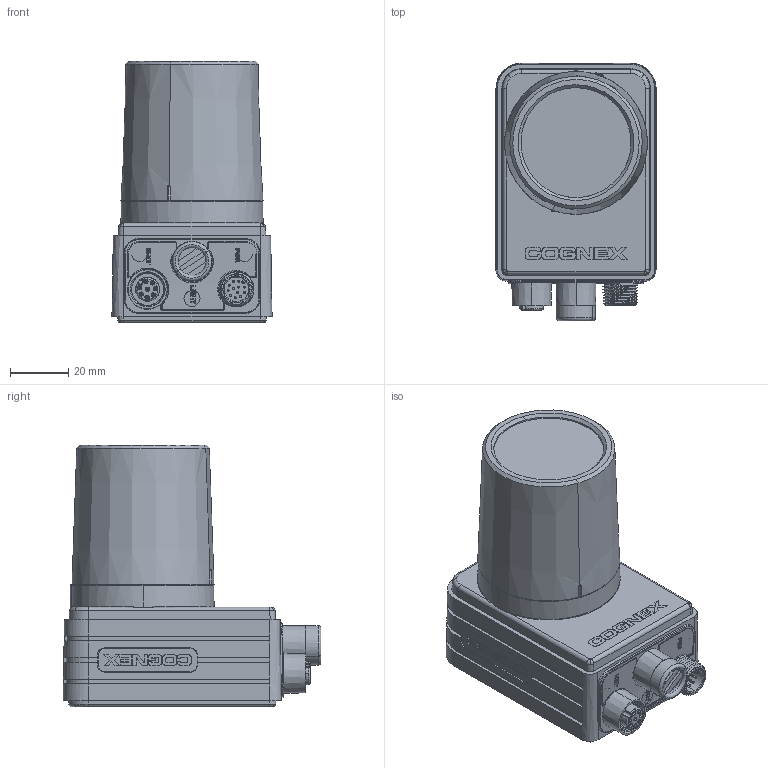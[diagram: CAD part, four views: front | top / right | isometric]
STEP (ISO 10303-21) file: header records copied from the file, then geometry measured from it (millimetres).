
FILE_DESCRIPTION (( 'STEP AP214' ), '1' );
FILE_NAME ('IS011-07_5-30-14.STEP', '2014-06-02T20:52:02', ( '' ), ( '' ), 'SwSTEP 2.0', 'SolidWorks 2014', '' );
FILE_SCHEMA (( 'AUTOMOTIVE_DESIGN' ));
Length unit declared in the file: millimetre
Products named in the file (2): IS011-07_5-30-14
Bounding box: 55 x 88.56 x 89.9 mm (x, y, z)
Volume: 177826.4 mm3; surface area: 77767.9 mm2
Topology: 16 solids, 48 shells, 4830 faces, 12393 edges, 8064 vertices
Faces by surface type: plane 3014, bspline 684, cylinder 672, cone 351, torus 69, sphere 40
Entity records: 227545 total; most frequent: CARTESIAN_POINT 70091, ORIENTED_EDGE 24586, DIRECTION 20551, EDGE_CURVE 12293, LINE 8433, VECTOR 8433, VERTEX_POINT 8060, AXIS2_PLACEMENT_3D 6059
